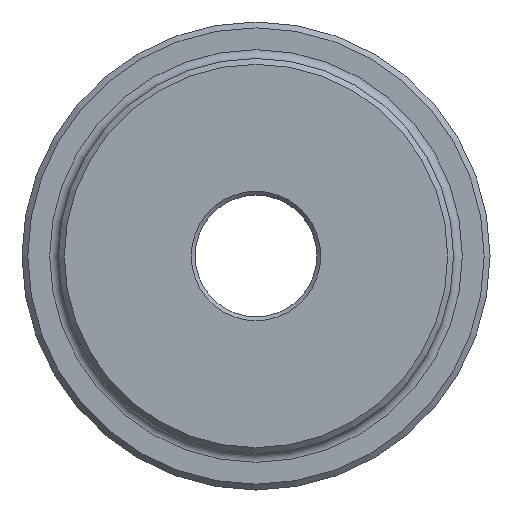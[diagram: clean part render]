
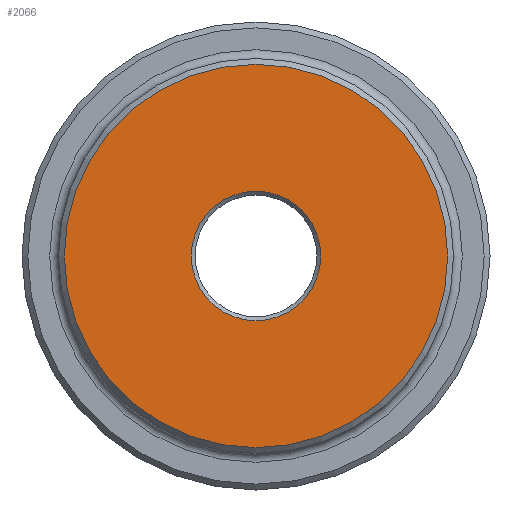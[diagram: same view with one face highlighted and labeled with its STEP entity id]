
A CAD part, left-side view. The second image highlights one B-rep face of the part: STEP entity #2066.
In plain terms, the highlighted planar face has unit normal (-1, 0, 0).
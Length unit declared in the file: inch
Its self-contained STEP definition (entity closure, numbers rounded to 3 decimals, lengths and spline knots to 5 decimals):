
#45 = CARTESIAN_POINT ( 'NONE',  ( 0., 0., -1.97 ) ) ;
#464 = EDGE_LOOP ( 'NONE', ( #484 ) ) ;
#484 = ORIENTED_EDGE ( 'NONE', *, *, #1676, .T. ) ;
#514 = DIRECTION ( 'NONE',  ( 0., 0., -1. ) ) ;
#616 = CARTESIAN_POINT ( 'NONE',  ( 0., 0., 0. ) ) ;
#634 = AXIS2_PLACEMENT_3D ( 'NONE', #1489, #1994, #1869 ) ;
#753 = CIRCLE ( 'NONE', #826, 1.97 ) ;
#826 = AXIS2_PLACEMENT_3D ( 'NONE', #616, #1072, #1916 ) ;
#877 = ORIENTED_EDGE ( 'NONE', *, *, #1154, .T. ) ;
#920 = PLANE ( 'NONE',  #1536 ) ;
#1027 = FACE_BOUND ( 'NONE', #464, .T. ) ;
#1072 = DIRECTION ( 'NONE',  ( -1., 0., 0. ) ) ;
#1154 = EDGE_CURVE ( 'NONE', #1573, #1573, #753, .T. ) ;
#1234 = FACE_OUTER_BOUND ( 'NONE', #2279, .T. ) ;
#1343 = CIRCLE ( 'NONE', #634, 0.66525 ) ;
#1489 = CARTESIAN_POINT ( 'NONE',  ( 0., 0., 0. ) ) ;
#1536 = AXIS2_PLACEMENT_3D ( 'NONE', #1539, #2161, #514 ) ;
#1539 = CARTESIAN_POINT ( 'NONE',  ( 0., 0., 0. ) ) ;
#1573 = VERTEX_POINT ( 'NONE', #45 ) ;
#1676 = EDGE_CURVE ( 'NONE', #2326, #2326, #1343, .T. ) ;
#1786 = CARTESIAN_POINT ( 'NONE',  ( 0., 0., -0.66525 ) ) ;
#1869 = DIRECTION ( 'NONE',  ( 0., 0., -1. ) ) ;
#1916 = DIRECTION ( 'NONE',  ( 0., 0., -1. ) ) ;
#1994 = DIRECTION ( 'NONE',  ( 1., 0., 0. ) ) ;
#2066 = ADVANCED_FACE ( 'NONE', ( #1027, #1234 ), #920, .F. ) ;
#2161 = DIRECTION ( 'NONE',  ( 1., 0., 0. ) ) ;
#2279 = EDGE_LOOP ( 'NONE', ( #877 ) ) ;
#2326 = VERTEX_POINT ( 'NONE', #1786 ) ;
